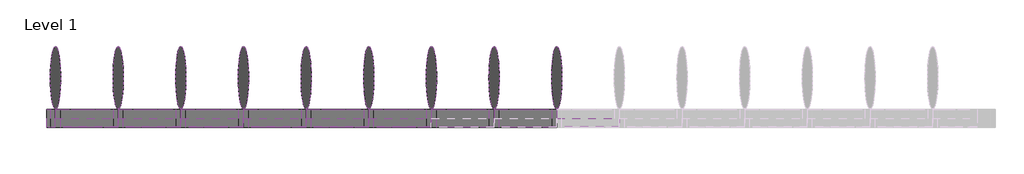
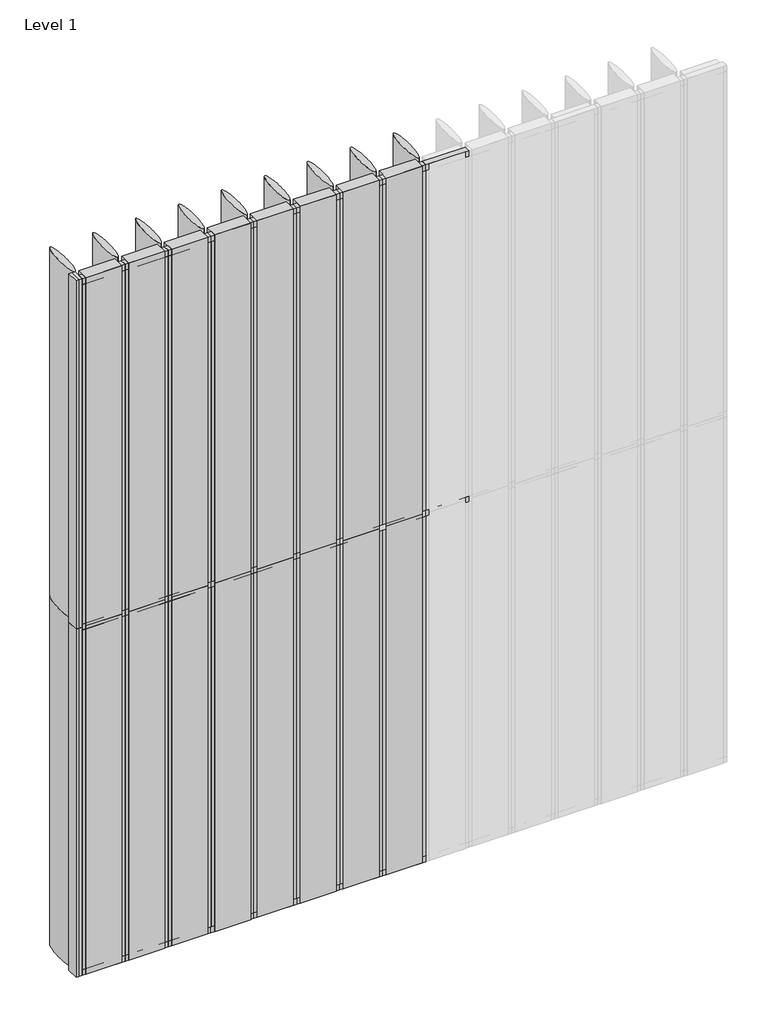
# One storey, part 1 of 2: 42 members, 36 plates.
"""IFC4 building model written with IfcOpenShell, lengths in millimetres."""

from ifc_helpers import new_model, si_unit, origin, place, context, project, spatial, transform, mapped, element, save
from components import rectangular_mullion_7b7f291e, rectangular_mullion_795f5a7c, rectangular_mullion_98250b89, rectangular_mullion_94c598e1, empty_system_panel_empty_4c56fec8, empty_system_panel_empty_d6a9d873, empty_system_panel_empty_5c88f992, empty_system_panel_empty_86f8aeda

model = new_model("IFC4")

# Units and contexts
model_context = context("Model", 3, world=origin())
ifc_project = project(units=[si_unit("LENGTHUNIT", "METRE", prefix="MILLI")], contexts=[model_context])

# Site, building, storey
site = spatial("IfcSite", under=ifc_project)
building = spatial("IfcBuilding", under=site)
storey = spatial("IfcBuildingStorey", under=building, Name="Level 1", Elevation=0.0)

# Members
placement = place(None, origin())
rectangular_mullion_shape = rectangular_mullion_7b7f291e(model_context)
element("IfcMember", 1, ObjectType="Rectangular Mullion : RSen_21_CWM_blade - 350 ellips - 0°_gen_duco projects", at=placement, inside=storey, context=model_context, shape_type="MappedRepresentation", body=[
    mapped(rectangular_mullion_shape, transform((2850.0, 3000.0, 0.0), x_axis=(-1.0, 0.0, 0.0), y_axis=(0.0, 1.0, 0.0), z_axis=(0.0, 0.0, -1.0))),
])
element("IfcMember", 2, ObjectType="Rectangular Mullion : RSen_21_CWM_blade - 350 ellips - 0°_gen_duco projects", at=placement, inside=storey, context=model_context, shape_type="MappedRepresentation", body=[
    mapped(rectangular_mullion_shape, transform((2500.0, 3000.0, 0.0), x_axis=(-1.0, 0.0, 0.0), y_axis=(0.0, 1.0, 0.0), z_axis=(0.0, 0.0, -1.0))),
])
element("IfcMember", 3, ObjectType="Rectangular Mullion : RSen_21_CWM_blade - 350 ellips - 0°_gen_duco projects", at=placement, inside=storey, context=model_context, shape_type="MappedRepresentation", body=[
    mapped(rectangular_mullion_shape, transform((2150.0, 3000.0, 0.0), x_axis=(-1.0, 0.0, 0.0), y_axis=(0.0, 1.0, 0.0), z_axis=(0.0, 0.0, -1.0))),
])
element("IfcMember", 4, ObjectType="Rectangular Mullion : RSen_21_CWM_blade - 350 ellips - 0°_gen_duco projects", at=placement, inside=storey, context=model_context, shape_type="MappedRepresentation", body=[
    mapped(rectangular_mullion_shape, transform((1800.0, 3000.0, 0.0), x_axis=(-1.0, 0.0, 0.0), y_axis=(0.0, 1.0, 0.0), z_axis=(0.0, 0.0, -1.0))),
])
element("IfcMember", 5, ObjectType="Rectangular Mullion : RSen_21_CWM_blade - 350 ellips - 0°_gen_duco projects", at=placement, inside=storey, context=model_context, shape_type="MappedRepresentation", body=[
    mapped(rectangular_mullion_shape, transform((1450.0, 3000.0, 0.0), x_axis=(-1.0, 0.0, 0.0), y_axis=(0.0, 1.0, 0.0), z_axis=(0.0, 0.0, -1.0))),
])
element("IfcMember", 6, ObjectType="Rectangular Mullion : RSen_21_CWM_blade - 350 ellips - 0°_gen_duco projects", at=placement, inside=storey, context=model_context, shape_type="MappedRepresentation", body=[
    mapped(rectangular_mullion_shape, transform((1100.0, 3000.0, 0.0), x_axis=(-1.0, 0.0, 0.0), y_axis=(0.0, 1.0, 0.0), z_axis=(0.0, 0.0, -1.0))),
])
element("IfcMember", 7, ObjectType="Rectangular Mullion : RSen_21_CWM_blade - 350 ellips - 0°_gen_duco projects", at=placement, inside=storey, context=model_context, shape_type="MappedRepresentation", body=[
    mapped(rectangular_mullion_shape, transform((750.0, 3000.0, 0.0), x_axis=(-1.0, 0.0, 0.0), y_axis=(0.0, 1.0, 0.0), z_axis=(0.0, 0.0, -1.0))),
])
element("IfcMember", 8, ObjectType="Rectangular Mullion : RSen_21_CWM_blade - 350 ellips - 0°_gen_duco projects", at=placement, inside=storey, context=model_context, shape_type="MappedRepresentation", body=[
    mapped(rectangular_mullion_shape, transform((400.0, 3000.0, 0.0), x_axis=(-1.0, 0.0, 0.0), y_axis=(0.0, 1.0, 0.0), z_axis=(0.0, 0.0, -1.0))),
])
element("IfcMember", 9, ObjectType="Rectangular Mullion : RSen_21_CWM_blade - 350 ellips - 0°_gen_duco projects", at=placement, inside=storey, context=model_context, shape_type="MappedRepresentation", body=[
    mapped(rectangular_mullion_shape, transform((50.0, 3000.0, 0.0), x_axis=(-1.0, 0.0, 0.0), y_axis=(0.0, 1.0, 0.0), z_axis=(0.0, 0.0, -1.0))),
])
element("IfcMember", 10, ObjectType="Rectangular Mullion : RSen_21_CWM_blade - 350 ellips - 0°_gen_duco projects", at=placement, inside=storey, context=model_context, shape_type="MappedRepresentation", body=[
    mapped(rectangular_mullion_shape, transform((2850.0, 3000.0, 3000.0), x_axis=(-1.0, 0.0, 0.0), y_axis=(0.0, 1.0, 0.0), z_axis=(0.0, 0.0, -1.0))),
])
element("IfcMember", 11, ObjectType="Rectangular Mullion : RSen_21_CWM_blade - 350 ellips - 0°_gen_duco projects", at=placement, inside=storey, context=model_context, shape_type="MappedRepresentation", body=[
    mapped(rectangular_mullion_shape, transform((2500.0, 3000.0, 3000.0), x_axis=(-1.0, 0.0, 0.0), y_axis=(0.0, 1.0, 0.0), z_axis=(0.0, 0.0, -1.0))),
])
element("IfcMember", 12, ObjectType="Rectangular Mullion : RSen_21_CWM_blade - 350 ellips - 0°_gen_duco projects", at=placement, inside=storey, context=model_context, shape_type="MappedRepresentation", body=[
    mapped(rectangular_mullion_shape, transform((2150.0, 3000.0, 3000.0), x_axis=(-1.0, 0.0, 0.0), y_axis=(0.0, 1.0, 0.0), z_axis=(0.0, 0.0, -1.0))),
])
element("IfcMember", 13, ObjectType="Rectangular Mullion : RSen_21_CWM_blade - 350 ellips - 0°_gen_duco projects", at=placement, inside=storey, context=model_context, shape_type="MappedRepresentation", body=[
    mapped(rectangular_mullion_shape, transform((1800.0, 3000.0, 3000.0), x_axis=(-1.0, 0.0, 0.0), y_axis=(0.0, 1.0, 0.0), z_axis=(0.0, 0.0, -1.0))),
])
element("IfcMember", 14, ObjectType="Rectangular Mullion : RSen_21_CWM_blade - 350 ellips - 0°_gen_duco projects", at=placement, inside=storey, context=model_context, shape_type="MappedRepresentation", body=[
    mapped(rectangular_mullion_shape, transform((1450.0, 3000.0, 3000.0), x_axis=(-1.0, 0.0, 0.0), y_axis=(0.0, 1.0, 0.0), z_axis=(0.0, 0.0, -1.0))),
])
element("IfcMember", 15, ObjectType="Rectangular Mullion : RSen_21_CWM_blade - 350 ellips - 0°_gen_duco projects", at=placement, inside=storey, context=model_context, shape_type="MappedRepresentation", body=[
    mapped(rectangular_mullion_shape, transform((1100.0, 3000.0, 3000.0), x_axis=(-1.0, 0.0, 0.0), y_axis=(0.0, 1.0, 0.0), z_axis=(0.0, 0.0, -1.0))),
])
element("IfcMember", 16, ObjectType="Rectangular Mullion : RSen_21_CWM_blade - 350 ellips - 0°_gen_duco projects", at=placement, inside=storey, context=model_context, shape_type="MappedRepresentation", body=[
    mapped(rectangular_mullion_shape, transform((750.0, 3000.0, 3000.0), x_axis=(-1.0, 0.0, 0.0), y_axis=(0.0, 1.0, 0.0), z_axis=(0.0, 0.0, -1.0))),
])
element("IfcMember", 17, ObjectType="Rectangular Mullion : RSen_21_CWM_blade - 350 ellips - 0°_gen_duco projects", at=placement, inside=storey, context=model_context, shape_type="MappedRepresentation", body=[
    mapped(rectangular_mullion_shape, transform((400.0, 3000.0, 3000.0), x_axis=(-1.0, 0.0, 0.0), y_axis=(0.0, 1.0, 0.0), z_axis=(0.0, 0.0, -1.0))),
])
element("IfcMember", 18, ObjectType="Rectangular Mullion : RSen_21_CWM_blade - 350 ellips - 0°_gen_duco projects", at=placement, inside=storey, context=model_context, shape_type="MappedRepresentation", body=[
    mapped(rectangular_mullion_shape, transform((50.0, 3000.0, 3000.0), x_axis=(-1.0, 0.0, 0.0), y_axis=(0.0, 1.0, 0.0), z_axis=(0.0, 0.0, -1.0))),
])
rectangular_mullion_2_shape = rectangular_mullion_795f5a7c(model_context)
element("IfcMember", 19, ObjectType="Rectangular Mullion : RSen_21_CWM_support profile 50x50 - left_gen_duco projects", at=placement, inside=storey, context=model_context, shape_type="MappedRepresentation", body=[
    mapped(rectangular_mullion_2_shape, transform((2850.0, 3000.0, 6000.0), x_axis=(0.0, 0.0, 1.0), y_axis=(0.0, 1.0, 0.0), z_axis=(-1.0, 0.0, 0.0))),
])
element("IfcMember", 20, ObjectType="Rectangular Mullion : RSen_21_CWM_support profile 50x50 - left_gen_duco projects", at=placement, inside=storey, context=model_context, shape_type="MappedRepresentation", body=[
    mapped(rectangular_mullion_2_shape, transform((2500.0, 3000.0, 6000.0), x_axis=(0.0, 0.0, 1.0), y_axis=(0.0, 1.0, 0.0), z_axis=(-1.0, 0.0, 0.0))),
])
element("IfcMember", 21, ObjectType="Rectangular Mullion : RSen_21_CWM_support profile 50x50 - left_gen_duco projects", at=placement, inside=storey, context=model_context, shape_type="MappedRepresentation", body=[
    mapped(rectangular_mullion_2_shape, transform((2150.0, 3000.0, 6000.0), x_axis=(0.0, 0.0, 1.0), y_axis=(0.0, 1.0, 0.0), z_axis=(-1.0, 0.0, 0.0))),
])
element("IfcMember", 22, ObjectType="Rectangular Mullion : RSen_21_CWM_support profile 50x50 - left_gen_duco projects", at=placement, inside=storey, context=model_context, shape_type="MappedRepresentation", body=[
    mapped(rectangular_mullion_2_shape, transform((1800.0, 3000.0, 6000.0), x_axis=(0.0, 0.0, 1.0), y_axis=(0.0, 1.0, 0.0), z_axis=(-1.0, 0.0, 0.0))),
])
element("IfcMember", 23, ObjectType="Rectangular Mullion : RSen_21_CWM_support profile 50x50 - left_gen_duco projects", at=placement, inside=storey, context=model_context, shape_type="MappedRepresentation", body=[
    mapped(rectangular_mullion_2_shape, transform((1450.0, 3000.0, 6000.0), x_axis=(0.0, 0.0, 1.0), y_axis=(0.0, 1.0, 0.0), z_axis=(-1.0, 0.0, 0.0))),
])
element("IfcMember", 24, ObjectType="Rectangular Mullion : RSen_21_CWM_support profile 50x50 - left_gen_duco projects", at=placement, inside=storey, context=model_context, shape_type="MappedRepresentation", body=[
    mapped(rectangular_mullion_2_shape, transform((1100.0, 3000.0, 6000.0), x_axis=(0.0, 0.0, 1.0), y_axis=(0.0, 1.0, 0.0), z_axis=(-1.0, 0.0, 0.0))),
])
element("IfcMember", 25, ObjectType="Rectangular Mullion : RSen_21_CWM_support profile 50x50 - left_gen_duco projects", at=placement, inside=storey, context=model_context, shape_type="MappedRepresentation", body=[
    mapped(rectangular_mullion_2_shape, transform((750.0, 3000.0, 6000.0), x_axis=(0.0, 0.0, 1.0), y_axis=(0.0, 1.0, 0.0), z_axis=(-1.0, 0.0, 0.0))),
])
element("IfcMember", 26, ObjectType="Rectangular Mullion : RSen_21_CWM_support profile 50x50 - left_gen_duco projects", at=placement, inside=storey, context=model_context, shape_type="MappedRepresentation", body=[
    mapped(rectangular_mullion_2_shape, transform((400.0, 3000.0, 6000.0), x_axis=(0.0, 0.0, 1.0), y_axis=(0.0, 1.0, 0.0), z_axis=(-1.0, 0.0, 0.0))),
])
element("IfcMember", 27, ObjectType="Rectangular Mullion : RSen_21_CWM_support profile 50x50 - left_gen_duco projects", at=placement, inside=storey, context=model_context, shape_type="MappedRepresentation", body=[
    mapped(rectangular_mullion_2_shape, transform((50.0, 3000.0, 6000.0), x_axis=(0.0, 0.0, 1.0), y_axis=(0.0, 1.0, 0.0), z_axis=(-1.0, 0.0, 0.0))),
])
rectangular_mullion_3_shape = rectangular_mullion_98250b89(model_context)
element("IfcMember", 28, ObjectType="Rectangular Mullion : RSen_21_CWM_support profile 50x50 - right_gen_duco projects", at=placement, inside=storey, context=model_context, shape_type="MappedRepresentation", body=[
    mapped(rectangular_mullion_3_shape, transform((2850.0, 3000.0, 0.0), x_axis=(0.0, 0.0, -1.0), y_axis=(0.0, 1.0, 0.0), z_axis=(1.0, 0.0, 0.0))),
])
element("IfcMember", 29, ObjectType="Rectangular Mullion : RSen_21_CWM_support profile 50x50 - right_gen_duco projects", at=placement, inside=storey, context=model_context, shape_type="MappedRepresentation", body=[
    mapped(rectangular_mullion_3_shape, transform((2500.0, 3000.0, 0.0), x_axis=(0.0, 0.0, -1.0), y_axis=(0.0, 1.0, 0.0), z_axis=(1.0, 0.0, 0.0))),
])
element("IfcMember", 30, ObjectType="Rectangular Mullion : RSen_21_CWM_support profile 50x50 - right_gen_duco projects", at=placement, inside=storey, context=model_context, shape_type="MappedRepresentation", body=[
    mapped(rectangular_mullion_3_shape, transform((2150.0, 3000.0, 0.0), x_axis=(0.0, 0.0, -1.0), y_axis=(0.0, 1.0, 0.0), z_axis=(1.0, 0.0, 0.0))),
])
element("IfcMember", 31, ObjectType="Rectangular Mullion : RSen_21_CWM_support profile 50x50 - right_gen_duco projects", at=placement, inside=storey, context=model_context, shape_type="MappedRepresentation", body=[
    mapped(rectangular_mullion_3_shape, transform((1800.0, 3000.0, 0.0), x_axis=(0.0, 0.0, -1.0), y_axis=(0.0, 1.0, 0.0), z_axis=(1.0, 0.0, 0.0))),
])
element("IfcMember", 32, ObjectType="Rectangular Mullion : RSen_21_CWM_support profile 50x50 - right_gen_duco projects", at=placement, inside=storey, context=model_context, shape_type="MappedRepresentation", body=[
    mapped(rectangular_mullion_3_shape, transform((1450.0, 3000.0, 0.0), x_axis=(0.0, 0.0, -1.0), y_axis=(0.0, 1.0, 0.0), z_axis=(1.0, 0.0, 0.0))),
])
element("IfcMember", 33, ObjectType="Rectangular Mullion : RSen_21_CWM_support profile 50x50 - right_gen_duco projects", at=placement, inside=storey, context=model_context, shape_type="MappedRepresentation", body=[
    mapped(rectangular_mullion_3_shape, transform((1100.0, 3000.0, 0.0), x_axis=(0.0, 0.0, -1.0), y_axis=(0.0, 1.0, 0.0), z_axis=(1.0, 0.0, 0.0))),
])
element("IfcMember", 34, ObjectType="Rectangular Mullion : RSen_21_CWM_support profile 50x50 - right_gen_duco projects", at=placement, inside=storey, context=model_context, shape_type="MappedRepresentation", body=[
    mapped(rectangular_mullion_3_shape, transform((750.0, 3000.0, 0.0), x_axis=(0.0, 0.0, -1.0), y_axis=(0.0, 1.0, 0.0), z_axis=(1.0, 0.0, 0.0))),
])
element("IfcMember", 35, ObjectType="Rectangular Mullion : RSen_21_CWM_support profile 50x50 - right_gen_duco projects", at=placement, inside=storey, context=model_context, shape_type="MappedRepresentation", body=[
    mapped(rectangular_mullion_3_shape, transform((400.0, 3000.0, 0.0), x_axis=(0.0, 0.0, -1.0), y_axis=(0.0, 1.0, 0.0), z_axis=(1.0, 0.0, 0.0))),
])
rectangular_mullion_4_shape = rectangular_mullion_94c598e1(model_context)
element("IfcMember", 36, ObjectType="Rectangular Mullion : RSen_21_CWM_support profile 50x50_gen_duco projects", at=placement, inside=storey, context=model_context, shape_type="MappedRepresentation", body=[
    mapped(rectangular_mullion_4_shape, transform((2850.0, 3000.0, 3000.0), x_axis=(0.0, 0.0, 1.0), y_axis=(0.0, 1.0, 0.0), z_axis=(-1.0, 0.0, 0.0))),
])
element("IfcMember", 37, ObjectType="Rectangular Mullion : RSen_21_CWM_support profile 50x50_gen_duco projects", at=placement, inside=storey, context=model_context, shape_type="MappedRepresentation", body=[
    mapped(rectangular_mullion_4_shape, transform((1800.0, 3000.0, 3000.0), x_axis=(0.0, 0.0, 1.0), y_axis=(0.0, 1.0, 0.0), z_axis=(-1.0, 0.0, 0.0))),
])
element("IfcMember", 38, ObjectType="Rectangular Mullion : RSen_21_CWM_support profile 50x50_gen_duco projects", at=placement, inside=storey, context=model_context, shape_type="MappedRepresentation", body=[
    mapped(rectangular_mullion_4_shape, transform((1450.0, 3000.0, 3000.0), x_axis=(0.0, 0.0, 1.0), y_axis=(0.0, 1.0, 0.0), z_axis=(-1.0, 0.0, 0.0))),
])
element("IfcMember", 39, ObjectType="Rectangular Mullion : RSen_21_CWM_support profile 50x50_gen_duco projects", at=placement, inside=storey, context=model_context, shape_type="MappedRepresentation", body=[
    mapped(rectangular_mullion_4_shape, transform((1100.0, 3000.0, 3000.0), x_axis=(0.0, 0.0, 1.0), y_axis=(0.0, 1.0, 0.0), z_axis=(-1.0, 0.0, 0.0))),
])
element("IfcMember", 40, ObjectType="Rectangular Mullion : RSen_21_CWM_support profile 50x50_gen_duco projects", at=placement, inside=storey, context=model_context, shape_type="MappedRepresentation", body=[
    mapped(rectangular_mullion_4_shape, transform((750.0, 3000.0, 3000.0), x_axis=(0.0, 0.0, 1.0), y_axis=(0.0, 1.0, 0.0), z_axis=(-1.0, 0.0, 0.0))),
])
element("IfcMember", 41, ObjectType="Rectangular Mullion : RSen_21_CWM_support profile 50x50_gen_duco projects", at=placement, inside=storey, context=model_context, shape_type="MappedRepresentation", body=[
    mapped(rectangular_mullion_4_shape, transform((400.0, 3000.0, 3000.0), x_axis=(0.0, 0.0, 1.0), y_axis=(0.0, 1.0, 0.0), z_axis=(-1.0, 0.0, 0.0))),
])
element("IfcMember", 42, ObjectType="Rectangular Mullion : RSen_21_CWM_support profile 50x50_gen_duco projects", at=placement, inside=storey, context=model_context, shape_type="MappedRepresentation", body=[
    mapped(rectangular_mullion_4_shape, transform((50.0, 3000.0, 3000.0), x_axis=(0.0, 0.0, 1.0), y_axis=(0.0, 1.0, 0.0), z_axis=(-1.0, 0.0, 0.0))),
])

# Plates
empty_system_panel_empty_shape = empty_system_panel_empty_4c56fec8(model_context)
element("IfcPlate", 43, ObjectType="Empty System Panel : Empty", at=placement, inside=storey, context=model_context, shape_type="MappedRepresentation", body=[
    mapped(empty_system_panel_empty_shape, transform((10.75, 3000.0, 0.0), x_axis=(-1.0, 0.0, 0.0), y_axis=(0.0, -1.0, 0.0), z_axis=(0.0, 0.0, 1.0))),
])
element("IfcPlate", 44, ObjectType="Empty System Panel : Empty", at=placement, inside=storey, context=model_context, shape_type="MappedRepresentation", body=[
    mapped(empty_system_panel_empty_shape, transform((10.75, 3000.0, 3000.0), x_axis=(-1.0, 0.0, 0.0), y_axis=(0.0, -1.0, 0.0), z_axis=(0.0, 0.0, 1.0))),
])
empty_system_panel_empty_2_shape = empty_system_panel_empty_d6a9d873(model_context)
element("IfcPlate", 45, ObjectType="Empty System Panel : Empty", at=placement, inside=storey, context=model_context, shape_type="MappedRepresentation", body=[
    mapped(empty_system_panel_empty_2_shape, transform((2675.0, 3000.0, 0.0), x_axis=(-1.0, 0.0, 0.0), y_axis=(0.0, -1.0, 0.0), z_axis=(0.0, 0.0, 1.0))),
])
element("IfcPlate", 46, ObjectType="Empty System Panel : Empty", at=placement, inside=storey, context=model_context, shape_type="MappedRepresentation", body=[
    mapped(empty_system_panel_empty_2_shape, transform((2325.0, 3000.0, 0.0), x_axis=(-1.0, 0.0, 0.0), y_axis=(0.0, -1.0, 0.0), z_axis=(0.0, 0.0, 1.0))),
])
element("IfcPlate", 47, ObjectType="Empty System Panel : Empty", at=placement, inside=storey, context=model_context, shape_type="MappedRepresentation", body=[
    mapped(empty_system_panel_empty_2_shape, transform((1975.0, 3000.0, 0.0), x_axis=(-1.0, 0.0, 0.0), y_axis=(0.0, -1.0, 0.0), z_axis=(0.0, 0.0, 1.0))),
])
element("IfcPlate", 48, ObjectType="Empty System Panel : Empty", at=placement, inside=storey, context=model_context, shape_type="MappedRepresentation", body=[
    mapped(empty_system_panel_empty_2_shape, transform((1625.0, 3000.0, 0.0), x_axis=(-1.0, 0.0, 0.0), y_axis=(0.0, -1.0, 0.0), z_axis=(0.0, 0.0, 1.0))),
])
element("IfcPlate", 49, ObjectType="Empty System Panel : Empty", at=placement, inside=storey, context=model_context, shape_type="MappedRepresentation", body=[
    mapped(empty_system_panel_empty_2_shape, transform((1275.0, 3000.0, 0.0), x_axis=(-1.0, 0.0, 0.0), y_axis=(0.0, -1.0, 0.0), z_axis=(0.0, 0.0, 1.0))),
])
element("IfcPlate", 50, ObjectType="Empty System Panel : Empty", at=placement, inside=storey, context=model_context, shape_type="MappedRepresentation", body=[
    mapped(empty_system_panel_empty_2_shape, transform((925.0, 3000.0, 0.0), x_axis=(-1.0, 0.0, 0.0), y_axis=(0.0, -1.0, 0.0), z_axis=(0.0, 0.0, 1.0))),
])
element("IfcPlate", 51, ObjectType="Empty System Panel : Empty", at=placement, inside=storey, context=model_context, shape_type="MappedRepresentation", body=[
    mapped(empty_system_panel_empty_2_shape, transform((575.0, 3000.0, 0.0), x_axis=(-1.0, 0.0, 0.0), y_axis=(0.0, -1.0, 0.0), z_axis=(0.0, 0.0, 1.0))),
])
element("IfcPlate", 52, ObjectType="Empty System Panel : Empty", at=placement, inside=storey, context=model_context, shape_type="MappedRepresentation", body=[
    mapped(empty_system_panel_empty_2_shape, transform((225.0, 3000.0, 0.0), x_axis=(-1.0, 0.0, 0.0), y_axis=(0.0, -1.0, 0.0), z_axis=(0.0, 0.0, 1.0))),
])
element("IfcPlate", 53, ObjectType="Empty System Panel : Empty", at=placement, inside=storey, context=model_context, shape_type="MappedRepresentation", body=[
    mapped(empty_system_panel_empty_2_shape, transform((2675.0, 3000.0, 3000.0), x_axis=(-1.0, 0.0, 0.0), y_axis=(0.0, -1.0, 0.0), z_axis=(0.0, 0.0, 1.0))),
])
element("IfcPlate", 54, ObjectType="Empty System Panel : Empty", at=placement, inside=storey, context=model_context, shape_type="MappedRepresentation", body=[
    mapped(empty_system_panel_empty_2_shape, transform((2325.0, 3000.0, 3000.0), x_axis=(-1.0, 0.0, 0.0), y_axis=(0.0, -1.0, 0.0), z_axis=(0.0, 0.0, 1.0))),
])
element("IfcPlate", 55, ObjectType="Empty System Panel : Empty", at=placement, inside=storey, context=model_context, shape_type="MappedRepresentation", body=[
    mapped(empty_system_panel_empty_2_shape, transform((1975.0, 3000.0, 3000.0), x_axis=(-1.0, 0.0, 0.0), y_axis=(0.0, -1.0, 0.0), z_axis=(0.0, 0.0, 1.0))),
])
element("IfcPlate", 56, ObjectType="Empty System Panel : Empty", at=placement, inside=storey, context=model_context, shape_type="MappedRepresentation", body=[
    mapped(empty_system_panel_empty_2_shape, transform((1625.0, 3000.0, 3000.0), x_axis=(-1.0, 0.0, 0.0), y_axis=(0.0, -1.0, 0.0), z_axis=(0.0, 0.0, 1.0))),
])
element("IfcPlate", 57, ObjectType="Empty System Panel : Empty", at=placement, inside=storey, context=model_context, shape_type="MappedRepresentation", body=[
    mapped(empty_system_panel_empty_2_shape, transform((1275.0, 3000.0, 3000.0), x_axis=(-1.0, 0.0, 0.0), y_axis=(0.0, -1.0, 0.0), z_axis=(0.0, 0.0, 1.0))),
])
element("IfcPlate", 58, ObjectType="Empty System Panel : Empty", at=placement, inside=storey, context=model_context, shape_type="MappedRepresentation", body=[
    mapped(empty_system_panel_empty_2_shape, transform((925.0, 3000.0, 3000.0), x_axis=(-1.0, 0.0, 0.0), y_axis=(0.0, -1.0, 0.0), z_axis=(0.0, 0.0, 1.0))),
])
element("IfcPlate", 59, ObjectType="Empty System Panel : Empty", at=placement, inside=storey, context=model_context, shape_type="MappedRepresentation", body=[
    mapped(empty_system_panel_empty_2_shape, transform((575.0, 3000.0, 3000.0), x_axis=(-1.0, 0.0, 0.0), y_axis=(0.0, -1.0, 0.0), z_axis=(0.0, 0.0, 1.0))),
])
element("IfcPlate", 60, ObjectType="Empty System Panel : Empty", at=placement, inside=storey, context=model_context, shape_type="MappedRepresentation", body=[
    mapped(empty_system_panel_empty_2_shape, transform((225.0, 3000.0, 3000.0), x_axis=(-1.0, 0.0, 0.0), y_axis=(0.0, -1.0, 0.0), z_axis=(0.0, 0.0, 1.0))),
])
empty_system_panel_empty_3_shape = empty_system_panel_empty_5c88f992(model_context)
element("IfcPlate", 61, ObjectType="Empty System Panel : Empty", at=placement, inside=storey, context=model_context, shape_type="MappedRepresentation", body=[
    mapped(empty_system_panel_empty_3_shape, transform((2675.0, 3000.0, 50.0), x_axis=(-1.0, 0.0, 0.0), y_axis=(0.0, -1.0, 0.0), z_axis=(0.0, 0.0, 1.0))),
])
element("IfcPlate", 62, ObjectType="Empty System Panel : Empty", at=placement, inside=storey, context=model_context, shape_type="MappedRepresentation", body=[
    mapped(empty_system_panel_empty_3_shape, transform((2325.0, 3000.0, 50.0), x_axis=(-1.0, 0.0, 0.0), y_axis=(0.0, -1.0, 0.0), z_axis=(0.0, 0.0, 1.0))),
])
element("IfcPlate", 63, ObjectType="Empty System Panel : Empty", at=placement, inside=storey, context=model_context, shape_type="MappedRepresentation", body=[
    mapped(empty_system_panel_empty_3_shape, transform((1975.0, 3000.0, 50.0), x_axis=(-1.0, 0.0, 0.0), y_axis=(0.0, -1.0, 0.0), z_axis=(0.0, 0.0, 1.0))),
])
element("IfcPlate", 64, ObjectType="Empty System Panel : Empty", at=placement, inside=storey, context=model_context, shape_type="MappedRepresentation", body=[
    mapped(empty_system_panel_empty_3_shape, transform((1625.0, 3000.0, 50.0), x_axis=(-1.0, 0.0, 0.0), y_axis=(0.0, -1.0, 0.0), z_axis=(0.0, 0.0, 1.0))),
])
element("IfcPlate", 65, ObjectType="Empty System Panel : Empty", at=placement, inside=storey, context=model_context, shape_type="MappedRepresentation", body=[
    mapped(empty_system_panel_empty_3_shape, transform((1275.0, 3000.0, 50.0), x_axis=(-1.0, 0.0, 0.0), y_axis=(0.0, -1.0, 0.0), z_axis=(0.0, 0.0, 1.0))),
])
element("IfcPlate", 66, ObjectType="Empty System Panel : Empty", at=placement, inside=storey, context=model_context, shape_type="MappedRepresentation", body=[
    mapped(empty_system_panel_empty_3_shape, transform((925.0, 3000.0, 50.0), x_axis=(-1.0, 0.0, 0.0), y_axis=(0.0, -1.0, 0.0), z_axis=(0.0, 0.0, 1.0))),
])
element("IfcPlate", 67, ObjectType="Empty System Panel : Empty", at=placement, inside=storey, context=model_context, shape_type="MappedRepresentation", body=[
    mapped(empty_system_panel_empty_3_shape, transform((575.0, 3000.0, 50.0), x_axis=(-1.0, 0.0, 0.0), y_axis=(0.0, -1.0, 0.0), z_axis=(0.0, 0.0, 1.0))),
])
element("IfcPlate", 68, ObjectType="Empty System Panel : Empty", at=placement, inside=storey, context=model_context, shape_type="MappedRepresentation", body=[
    mapped(empty_system_panel_empty_3_shape, transform((225.0, 3000.0, 50.0), x_axis=(-1.0, 0.0, 0.0), y_axis=(0.0, -1.0, 0.0), z_axis=(0.0, 0.0, 1.0))),
])
element("IfcPlate", 69, ObjectType="Empty System Panel : Empty", at=placement, inside=storey, context=model_context, shape_type="MappedRepresentation", body=[
    mapped(empty_system_panel_empty_3_shape, transform((2675.0, 3000.0, 3025.0), x_axis=(-1.0, 0.0, 0.0), y_axis=(0.0, -1.0, 0.0), z_axis=(0.0, 0.0, 1.0))),
])
element("IfcPlate", 70, ObjectType="Empty System Panel : Empty", at=placement, inside=storey, context=model_context, shape_type="MappedRepresentation", body=[
    mapped(empty_system_panel_empty_3_shape, transform((2325.0, 3000.0, 3025.0), x_axis=(-1.0, 0.0, 0.0), y_axis=(0.0, -1.0, 0.0), z_axis=(0.0, 0.0, 1.0))),
])
element("IfcPlate", 71, ObjectType="Empty System Panel : Empty", at=placement, inside=storey, context=model_context, shape_type="MappedRepresentation", body=[
    mapped(empty_system_panel_empty_3_shape, transform((1975.0, 3000.0, 3025.0), x_axis=(-1.0, 0.0, 0.0), y_axis=(0.0, -1.0, 0.0), z_axis=(0.0, 0.0, 1.0))),
])
element("IfcPlate", 72, ObjectType="Empty System Panel : Empty", at=placement, inside=storey, context=model_context, shape_type="MappedRepresentation", body=[
    mapped(empty_system_panel_empty_3_shape, transform((1625.0, 3000.0, 3025.0), x_axis=(-1.0, 0.0, 0.0), y_axis=(0.0, -1.0, 0.0), z_axis=(0.0, 0.0, 1.0))),
])
element("IfcPlate", 73, ObjectType="Empty System Panel : Empty", at=placement, inside=storey, context=model_context, shape_type="MappedRepresentation", body=[
    mapped(empty_system_panel_empty_3_shape, transform((1275.0, 3000.0, 3025.0), x_axis=(-1.0, 0.0, 0.0), y_axis=(0.0, -1.0, 0.0), z_axis=(0.0, 0.0, 1.0))),
])
element("IfcPlate", 74, ObjectType="Empty System Panel : Empty", at=placement, inside=storey, context=model_context, shape_type="MappedRepresentation", body=[
    mapped(empty_system_panel_empty_3_shape, transform((925.0, 3000.0, 3025.0), x_axis=(-1.0, 0.0, 0.0), y_axis=(0.0, -1.0, 0.0), z_axis=(0.0, 0.0, 1.0))),
])
element("IfcPlate", 75, ObjectType="Empty System Panel : Empty", at=placement, inside=storey, context=model_context, shape_type="MappedRepresentation", body=[
    mapped(empty_system_panel_empty_3_shape, transform((575.0, 3000.0, 3025.0), x_axis=(-1.0, 0.0, 0.0), y_axis=(0.0, -1.0, 0.0), z_axis=(0.0, 0.0, 1.0))),
])
element("IfcPlate", 76, ObjectType="Empty System Panel : Empty", at=placement, inside=storey, context=model_context, shape_type="MappedRepresentation", body=[
    mapped(empty_system_panel_empty_3_shape, transform((225.0, 3000.0, 3025.0), x_axis=(-1.0, 0.0, 0.0), y_axis=(0.0, -1.0, 0.0), z_axis=(0.0, 0.0, 1.0))),
])
empty_system_panel_empty_4_shape = empty_system_panel_empty_86f8aeda(model_context)
element("IfcPlate", 77, ObjectType="Empty System Panel : Empty", at=placement, inside=storey, context=model_context, shape_type="MappedRepresentation", body=[
    mapped(empty_system_panel_empty_4_shape, transform((25.0, 3000.0, 0.0), x_axis=(-1.0, 0.0, 0.0), y_axis=(0.0, -1.0, 0.0), z_axis=(0.0, 0.0, 1.0))),
])
element("IfcPlate", 78, ObjectType="Empty System Panel : Empty", at=placement, inside=storey, context=model_context, shape_type="MappedRepresentation", body=[
    mapped(empty_system_panel_empty_4_shape, transform((25.0, 3000.0, 3000.0), x_axis=(-1.0, 0.0, 0.0), y_axis=(0.0, -1.0, 0.0), z_axis=(0.0, 0.0, 1.0))),
])

save(model, "model.ifc")
